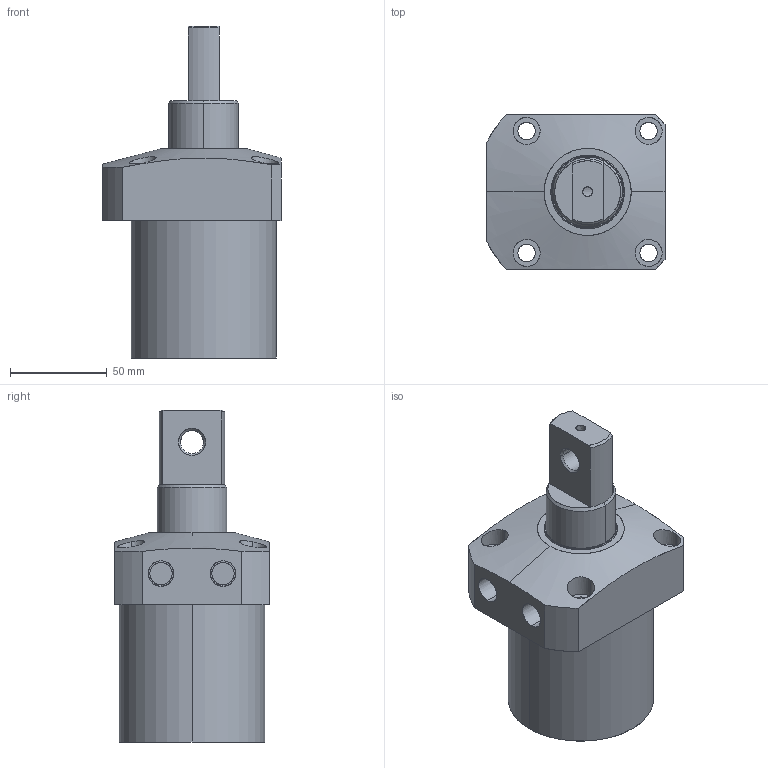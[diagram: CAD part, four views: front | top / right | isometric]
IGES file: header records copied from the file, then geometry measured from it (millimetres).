
Start section: SolidWorks IGES file using analytic representation for surfaces
Global section: file name: E:\karthik\CLASYS\Pneumatic Swing cylinders\Top mount cyl 0311-P\75\0312-0751.IGS; native system: SolidWorks 2010; preprocessor: SolidWorks 2010; author: karthik; date: 130916.102559; units: millimetre
Bounding box: 92 x 80 x 171.5 mm (x, y, z)
Surface area: 55779.1 mm2 (no closed solid volume)
Topology: 0 solids, 0 shells, 101 faces, 2634 edges, 2634 vertices
Faces by surface type: revolution 72, bspline 29
